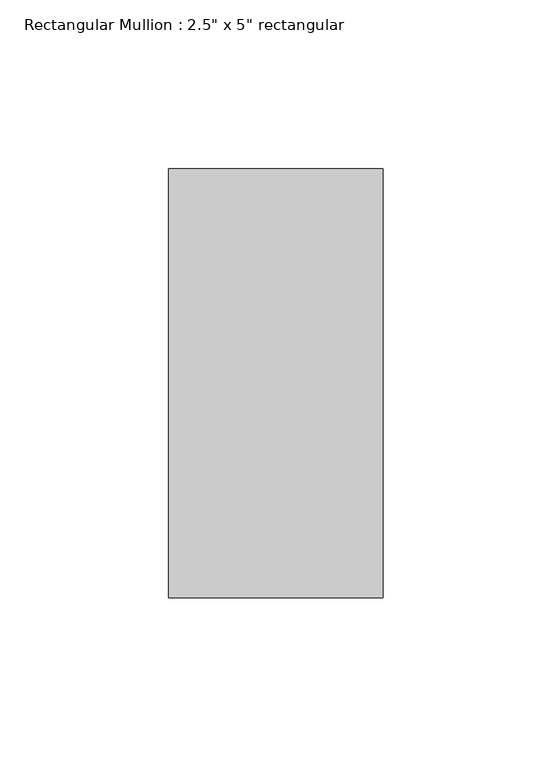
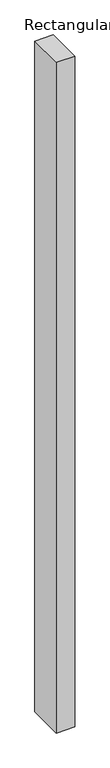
"""IFC4 building model written with IfcOpenShell, lengths in millimetres: member geometry."""

from ifc_helpers import new_model, si_unit, frame, origin, place, context, project, spatial, polyline, outline, extrude, source, transform, mapped, element, save


def member_bd5c9510(model_context):
    return source(origin(), model_context, "Body", "SweptSolid", [
        extrude(outline(polyline([(31.75, 63.5), (31.75, -63.5), (-31.75, -63.5), (-31.75, 63.5), (31.75, 63.5)])), frame((0.0, 0.0, -2444.7500001), z_axis=(0.0, 0.0, 1.0), x_axis=(1.0, 0.0, 0.0)), (0.0, 0.0, 1.0), 2444.7500001),
    ])


if __name__ == "__main__":
    model = new_model("IFC4")
    model_context = context("Model", 3, world=origin())
    ifc_project = project(units=[si_unit("LENGTHUNIT", "METRE", prefix="MILLI")], contexts=[model_context])
    site = spatial("IfcSite", under=ifc_project)
    building = spatial("IfcBuilding", under=site)
    placement = place(None, origin())
    member_shape = member_bd5c9510(model_context)
    element("IfcMember", 1, ObjectType="Rectangular Mullion : 2.5\" x 5\" rectangular", at=placement, inside=building, context=model_context, shape_type="MappedRepresentation", body=[
        mapped(member_shape, transform((0.0, 0.0, 0.0), x_axis=(1.0, 0.0, 0.0), y_axis=(0.0, 1.0, 0.0), z_axis=(0.0, 0.0, 1.0))),
    ])
    save(model, "model.ifc")
